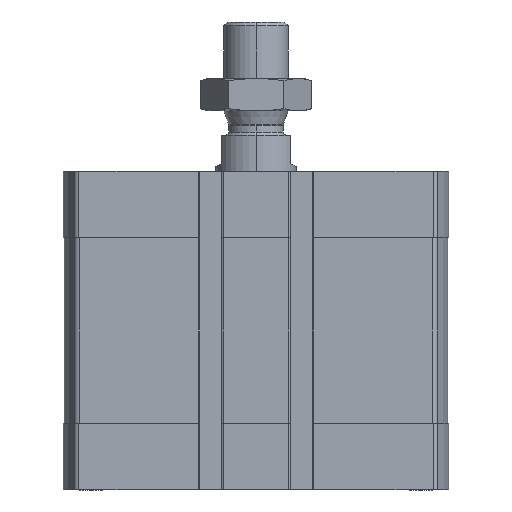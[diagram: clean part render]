
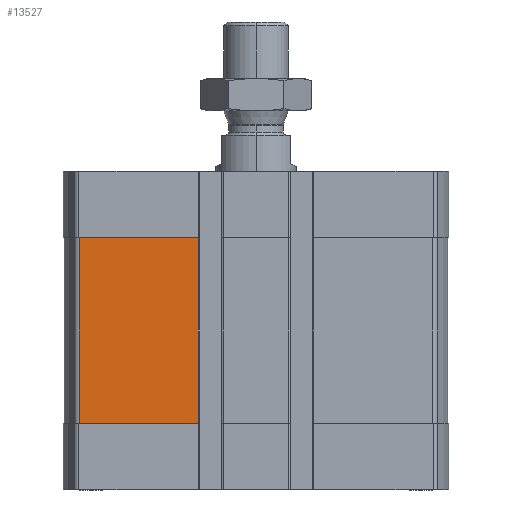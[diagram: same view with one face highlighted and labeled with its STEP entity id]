
A CAD part, left-side view. The second image highlights one B-rep face of the part: STEP entity #13527.
In plain terms, the highlighted planar face has unit normal (-1, 0, 0).
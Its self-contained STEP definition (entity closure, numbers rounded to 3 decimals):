
#154 = DIRECTION ( 'NONE',  ( 0., 0., -1. ) ) ;
#229 = EDGE_CURVE ( 'NONE', #3300, #3646, #12315, .T. ) ;
#1087 = EDGE_CURVE ( 'NONE', #3646, #4677, #7651, .T. ) ;
#1110 = AXIS2_PLACEMENT_3D ( 'NONE', #10076, #5147, #13805 ) ;
#1290 = CARTESIAN_POINT ( 'NONE',  ( -47.5, 43.743, -16.5 ) ) ;
#1502 = CARTESIAN_POINT ( 'NONE',  ( -47.5, 14.3, -16.5 ) ) ;
#1930 = EDGE_CURVE ( 'NONE', #14700, #3300, #3115, .T. ) ;
#2337 = DIRECTION ( 'NONE',  ( 0., 1., 0. ) ) ;
#2511 = CARTESIAN_POINT ( 'NONE',  ( -47.5, 0., -16.5 ) ) ;
#2706 = LINE ( 'NONE', #7902, #15438 ) ;
#3096 = VECTOR ( 'NONE', #8663, 1000. ) ;
#3115 = LINE ( 'NONE', #7714, #3096 ) ;
#3300 = VERTEX_POINT ( 'NONE', #10878 ) ;
#3646 = VERTEX_POINT ( 'NONE', #1502 ) ;
#3672 = ORIENTED_EDGE ( 'NONE', *, *, #1930, .T. ) ;
#4677 = VERTEX_POINT ( 'NONE', #1290 ) ;
#5147 = DIRECTION ( 'NONE',  ( -1., 0., 0. ) ) ;
#7449 = VECTOR ( 'NONE', #2337, 1000. ) ;
#7515 = CARTESIAN_POINT ( 'NONE',  ( -47.5, 43.743, -62.5 ) ) ;
#7651 = LINE ( 'NONE', #2511, #7449 ) ;
#7714 = CARTESIAN_POINT ( 'NONE',  ( -47.5, 43.743, -62.5 ) ) ;
#7745 = ORIENTED_EDGE ( 'NONE', *, *, #229, .T. ) ;
#7902 = CARTESIAN_POINT ( 'NONE',  ( -47.5, 43.743, -62.5 ) ) ;
#8198 = FACE_OUTER_BOUND ( 'NONE', #11305, .T. ) ;
#8663 = DIRECTION ( 'NONE',  ( 0., -1., 0. ) ) ;
#8955 = PLANE ( 'NONE',  #1110 ) ;
#9172 = ORIENTED_EDGE ( 'NONE', *, *, #1087, .T. ) ;
#10076 = CARTESIAN_POINT ( 'NONE',  ( -47.5, 43.743, -62.5 ) ) ;
#10878 = CARTESIAN_POINT ( 'NONE',  ( -47.5, 14.3, -62.5 ) ) ;
#11305 = EDGE_LOOP ( 'NONE', ( #3672, #7745, #9172, #13549 ) ) ;
#12262 = VECTOR ( 'NONE', #13487, 1000. ) ;
#12315 = LINE ( 'NONE', #14503, #12262 ) ;
#13487 = DIRECTION ( 'NONE',  ( 0., 0., 1. ) ) ;
#13527 = ADVANCED_FACE ( 'NONE', ( #8198 ), #8955, .T. ) ;
#13549 = ORIENTED_EDGE ( 'NONE', *, *, #14907, .T. ) ;
#13805 = DIRECTION ( 'NONE',  ( 0., 0., 1. ) ) ;
#14503 = CARTESIAN_POINT ( 'NONE',  ( -47.5, 14.3, -62.5 ) ) ;
#14700 = VERTEX_POINT ( 'NONE', #7515 ) ;
#14907 = EDGE_CURVE ( 'NONE', #4677, #14700, #2706, .T. ) ;
#15438 = VECTOR ( 'NONE', #154, 1000. ) ;
